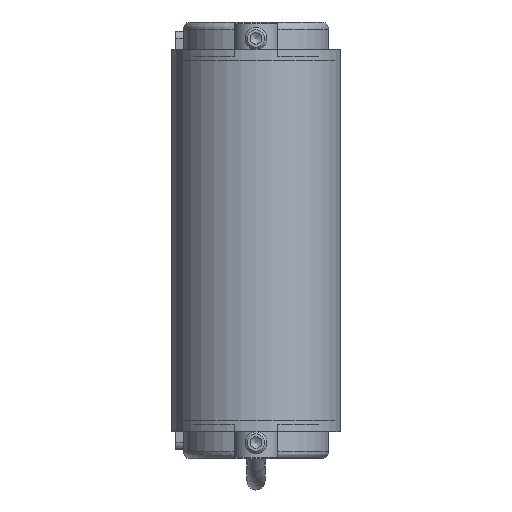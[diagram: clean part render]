
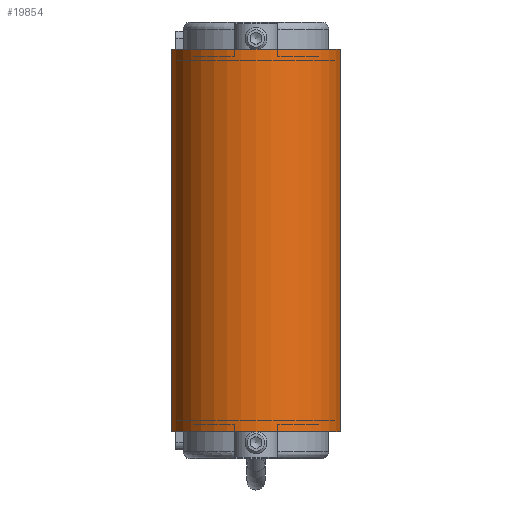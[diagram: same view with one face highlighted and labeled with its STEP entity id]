
A CAD part, front view. The second image highlights one B-rep face of the part: STEP entity #19854.
In plain terms, the highlighted cylindrical face has radius 23.3 mm (diameter 46.6 mm), a partial arc.
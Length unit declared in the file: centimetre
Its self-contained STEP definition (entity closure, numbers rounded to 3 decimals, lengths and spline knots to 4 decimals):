
#560=CYLINDRICAL_SURFACE('',#21238,2.33);
#1237=CIRCLE('',#21233,2.33);
#1240=CIRCLE('',#21239,2.33);
#2073=FACE_OUTER_BOUND('',#3136,.T.);
#3136=EDGE_LOOP('',(#13471,#13472,#13473,#13474));
#4498=LINE('',#29368,#6095);
#4499=LINE('',#29372,#6096);
#6095=VECTOR('',#24029,1.);
#6096=VECTOR('',#24034,1.);
#7888=VERTEX_POINT('',#29351);
#7889=VERTEX_POINT('',#29352);
#7894=VERTEX_POINT('',#29366);
#7895=VERTEX_POINT('',#29370);
#10075=EDGE_CURVE('',#7888,#7889,#1237,.T.);
#10083=EDGE_CURVE('',#7894,#7889,#4498,.T.);
#10084=EDGE_CURVE('',#7894,#7895,#1240,.T.);
#10085=EDGE_CURVE('',#7888,#7895,#4499,.T.);
#13471=ORIENTED_EDGE('',*,*,#10084,.T.);
#13472=ORIENTED_EDGE('',*,*,#10085,.F.);
#13473=ORIENTED_EDGE('',*,*,#10075,.T.);
#13474=ORIENTED_EDGE('',*,*,#10083,.F.);
#19854=ADVANCED_FACE('',(#2073),#560,.T.);
#21233=AXIS2_PLACEMENT_3D('',#29353,#24014,#24015);
#21238=AXIS2_PLACEMENT_3D('',#29369,#24030,#24031);
#21239=AXIS2_PLACEMENT_3D('',#29371,#24032,#24033);
#24014=DIRECTION('center_axis',(0.,0.,
-1.));
#24015=DIRECTION('ref_axis',(-1.,0.,0.));
#24029=DIRECTION('',(0.,0.,1.));
#24030=DIRECTION('center_axis',(0.,0.,
-1.));
#24031=DIRECTION('ref_axis',(-1.,0.,0.));
#24032=DIRECTION('center_axis',(0.,0.,
1.));
#24033=DIRECTION('ref_axis',(-1.,0.,0.));
#24034=DIRECTION('',(0.,0.,-1.));
#29351=CARTESIAN_POINT('',(2.33,-127.,5.25));
#29352=CARTESIAN_POINT('',(-2.33,-127.,5.25));
#29353=CARTESIAN_POINT('Origin',(0.,-127.,5.25));
#29366=CARTESIAN_POINT('',(-2.33,-127.,-5.25));
#29368=CARTESIAN_POINT('',(-2.33,-127.,0.));
#29369=CARTESIAN_POINT('Origin',(0.,-127.,0.));
#29370=CARTESIAN_POINT('',(2.33,-127.,-5.25));
#29371=CARTESIAN_POINT('Origin',(0.,-127.,-5.25));
#29372=CARTESIAN_POINT('',(2.33,-127.,0.));
